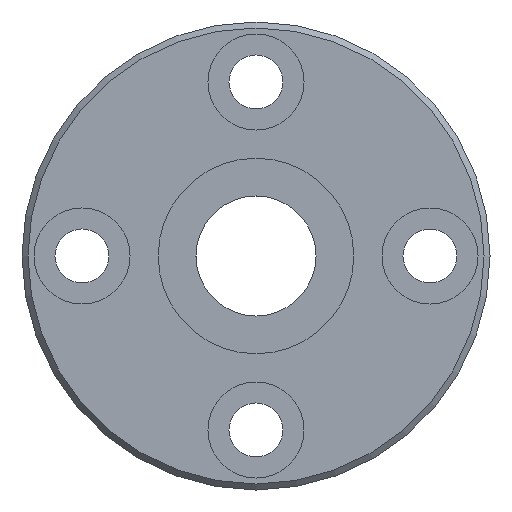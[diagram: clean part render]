
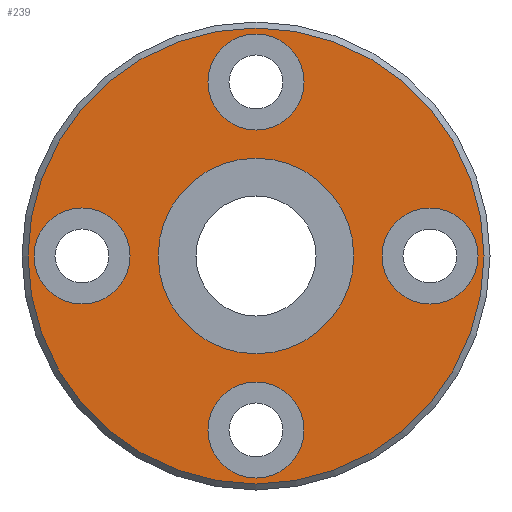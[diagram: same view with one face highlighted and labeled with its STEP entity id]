
A CAD part, left-side view. The second image highlights one B-rep face of the part: STEP entity #239.
In plain terms, the highlighted planar face has unit normal (-1, 0, 0).
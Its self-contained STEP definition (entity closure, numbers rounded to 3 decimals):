
#164=CARTESIAN_POINT('',(0.0,0.,19.0));
#165=VERTEX_POINT('',#164);
#166=CARTESIAN_POINT('',(0.0,0.0,0.0));
#167=DIRECTION('',(1.0,0.0,0.0));
#168=DIRECTION('',(0.0,0.0,-1.0));
#169=AXIS2_PLACEMENT_3D('',#166,#167,#168);
#170=CIRCLE('',#169,19.0);
#171=EDGE_CURVE('',#165,#165,#170,.T.);
#176=CARTESIAN_POINT('',(0.0,0.0,8.825));
#177=DIRECTION('',(-1.0,0.0,0.0));
#178=DIRECTION('',(0.0,0.0,1.0));
#179=AXIS2_PLACEMENT_3D('',#176,#177,#178);
#180=PLANE('',#179);
#181=ORIENTED_EDGE('',*,*,#171,.F.);
#182=EDGE_LOOP('',(#181));
#183=FACE_OUTER_BOUND('',#182,.T.);
#184=CARTESIAN_POINT('',(0.0,0.0,8.15));
#185=VERTEX_POINT('',#184);
#186=CARTESIAN_POINT('',(0.0,0.0,0.0));
#187=DIRECTION('',(-1.0,0.0,0.0));
#188=DIRECTION('',(0.0,0.0,1.0));
#189=AXIS2_PLACEMENT_3D('',#186,#187,#188);
#190=CIRCLE('',#189,8.15);
#191=EDGE_CURVE('',#185,#185,#190,.T.);
#192=ORIENTED_EDGE('',*,*,#191,.F.);
#193=EDGE_LOOP('',(#192));
#194=FACE_BOUND('',#193,.T.);
#195=CARTESIAN_POINT('',(0.0,18.5,0.));
#196=VERTEX_POINT('',#195);
#197=CARTESIAN_POINT('',(0.0,14.5,0.));
#198=DIRECTION('',(1.0,0.0,0.0));
#199=DIRECTION('',(0.0,1.0,0.0));
#200=AXIS2_PLACEMENT_3D('',#197,#198,#199);
#201=CIRCLE('',#200,4.0);
#202=EDGE_CURVE('',#196,#196,#201,.T.);
#203=ORIENTED_EDGE('',*,*,#202,.T.);
#204=EDGE_LOOP('',(#203));
#205=FACE_BOUND('',#204,.T.);
#206=CARTESIAN_POINT('',(0.0,-10.5,0.));
#207=VERTEX_POINT('',#206);
#208=CARTESIAN_POINT('',(0.0,-14.5,0.));
#209=DIRECTION('',(1.0,0.0,0.0));
#210=DIRECTION('',(0.0,1.0,0.0));
#211=AXIS2_PLACEMENT_3D('',#208,#209,#210);
#212=CIRCLE('',#211,4.0);
#213=EDGE_CURVE('',#207,#207,#212,.T.);
#214=ORIENTED_EDGE('',*,*,#213,.T.);
#215=EDGE_LOOP('',(#214));
#216=FACE_BOUND('',#215,.T.);
#217=CARTESIAN_POINT('',(0.0,4.,14.5));
#218=VERTEX_POINT('',#217);
#219=CARTESIAN_POINT('',(0.0,0.,14.5));
#220=DIRECTION('',(1.0,0.0,0.0));
#221=DIRECTION('',(0.0,1.0,0.0));
#222=AXIS2_PLACEMENT_3D('',#219,#220,#221);
#223=CIRCLE('',#222,4.0);
#224=EDGE_CURVE('',#218,#218,#223,.T.);
#225=ORIENTED_EDGE('',*,*,#224,.T.);
#226=EDGE_LOOP('',(#225));
#227=FACE_BOUND('',#226,.T.);
#228=CARTESIAN_POINT('',(0.0,4.,-14.5));
#229=VERTEX_POINT('',#228);
#230=CARTESIAN_POINT('',(0.0,0.,-14.5));
#231=DIRECTION('',(1.0,0.0,0.0));
#232=DIRECTION('',(0.0,1.0,0.0));
#233=AXIS2_PLACEMENT_3D('',#230,#231,#232);
#234=CIRCLE('',#233,4.0);
#235=EDGE_CURVE('',#229,#229,#234,.T.);
#236=ORIENTED_EDGE('',*,*,#235,.T.);
#237=EDGE_LOOP('',(#236));
#238=FACE_BOUND('',#237,.T.);
#239=ADVANCED_FACE('',(#183,#194,#205,#216,#227,#238),#180,.T.);
